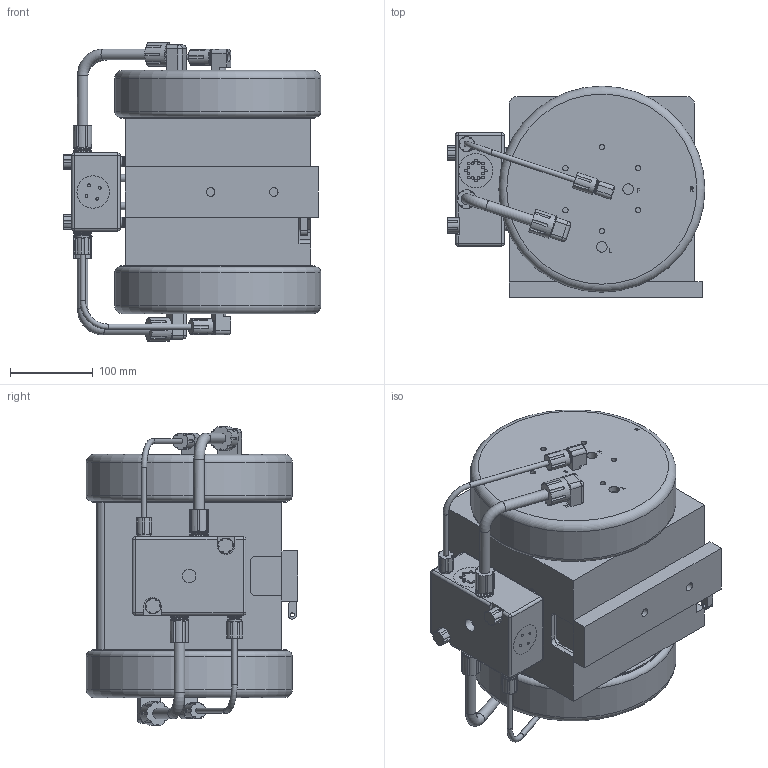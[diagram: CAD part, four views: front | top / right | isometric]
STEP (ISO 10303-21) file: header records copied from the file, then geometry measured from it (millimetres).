
FILE_DESCRIPTION (( 'STEP AP214' ), '1' );
FILE_NAME ('PSU140_with shuttle.STEP', '2013-07-25T19:14:31', ( '' ), ( '' ), 'SwSTEP 2.0', 'SolidWorks 2012', '' );
FILE_SCHEMA (( 'AUTOMOTIVE_DESIGN' ));
Length unit declared in the file: inch
Products named in the file (1): PSU140_with shuttle
Bounding box: 311.4 x 255.52 x 361.06 mm (x, y, z)
Volume: 15544017.6 mm3; surface area: 509256 mm2
Topology: 1 solids, 1 shells, 1349 faces, 3444 edges, 2268 vertices
Faces by surface type: plane 899, cylinder 236, bspline 147, cone 47, sphere 12, torus 8
Full cylindrical faces by diameter (mm): 3.251 x32, 3.264 x4, 3.302 x8, 4.445 x1, 4.902 x1, 6.35 x4, 6.528 x12, 9.144 x2, 10.312 x2, 10.541 x2, 12.7 x8, 12.725 x4, 15.875 x4, 16.154 x1, 17.018 x2, 18.542 x4, 19.812 x2, 22.225 x2, 22.606 x2, 28.575 x2, 31.877 x1, 33.401 x1, 38.786 x2, 61.138 x1, 234.29 x2, 248.92 x2
Entity records: 47797 total; most frequent: CARTESIAN_POINT 14800, ORIENTED_EDGE 6412, DIRECTION 5998, EDGE_CURVE 3206, VECTOR 2228, LINE 2228, VERTEX_POINT 2199, AXIS2_PLACEMENT_3D 1885
